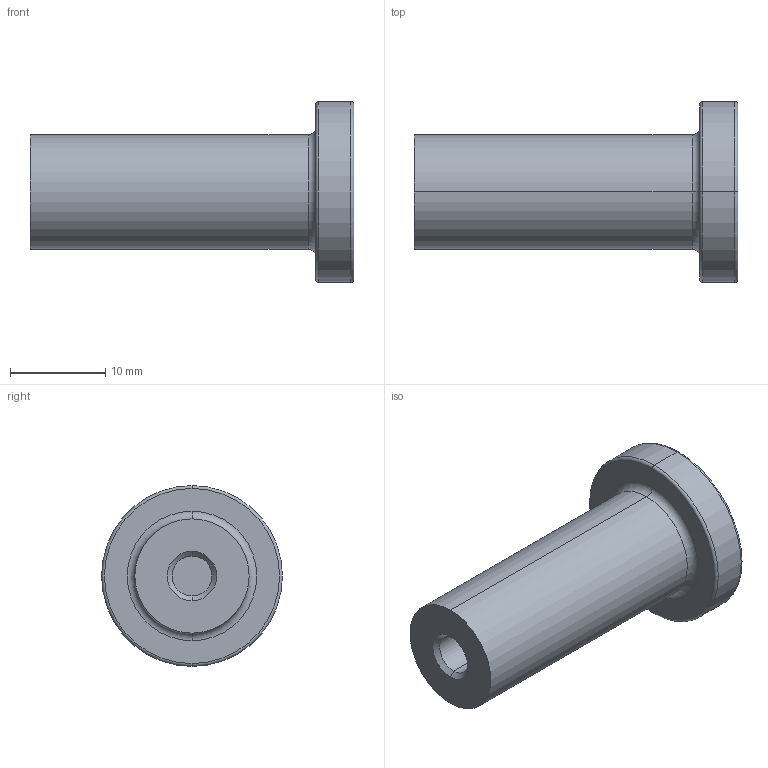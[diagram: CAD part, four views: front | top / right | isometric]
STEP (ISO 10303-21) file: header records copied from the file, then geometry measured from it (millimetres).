
FILE_DESCRIPTION (( 'STEP AP214' ), '1' );
FILE_NAME ('70131-00-00.STEP', '2020-12-12T01:08:37', ( '' ), ( '' ), 'SwSTEP 2.0', 'SolidWorks 2015', '' );
FILE_SCHEMA (( 'AUTOMOTIVE_DESIGN' ));
Length unit declared in the file: millimetre
Products named in the file (1): 70131-00-00
Bounding box: 34 x 19 x 19 mm (x, y, z)
Surface area: 2155.2 mm2 (no closed solid volume)
Topology: 0 solids, 1 shells, 17 faces, 34 edges, 20 vertices
Faces by surface type: cylinder 6, torus 6, plane 3, cone 2
Entity records: 660 total; most frequent: DIRECTION 96, CARTESIAN_POINT 72, ORIENTED_EDGE 66, AXIS2_PLACEMENT_3D 44, EDGE_CURVE 34, CIRCLE 26, VERTEX_POINT 20, UNCERTAINTY_MEASURE_WITH_UNIT 19
